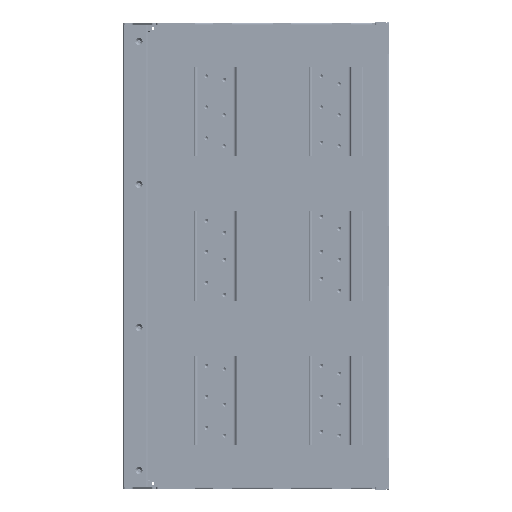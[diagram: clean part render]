
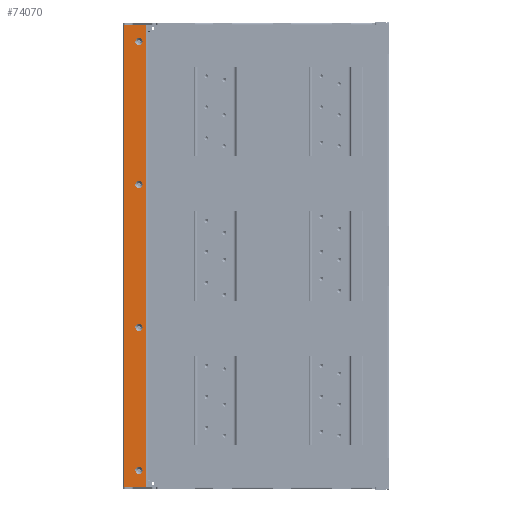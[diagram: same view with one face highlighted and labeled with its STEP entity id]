
A CAD part, left-side view. The second image highlights one B-rep face of the part: STEP entity #74070.
In plain terms, the highlighted planar face has unit normal (-1, 0, 0).
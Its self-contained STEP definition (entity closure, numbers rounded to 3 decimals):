
#5043 = EDGE_CURVE ( 'NONE', #69368, #55714, #101835, .T. ) ;
#6236 = EDGE_LOOP ( 'NONE', ( #173996, #24056 ) ) ;
#9620 = VERTEX_POINT ( 'NONE', #147179 ) ;
#9882 = CARTESIAN_POINT ( 'NONE',  ( -638.698, 403.789, -435.547 ) ) ;
#10195 = ORIENTED_EDGE ( 'NONE', *, *, #133899, .T. ) ;
#11473 = DIRECTION ( 'NONE',  ( 1., 0., 0. ) ) ;
#12767 = DIRECTION ( 'NONE',  ( 0., 0., -1. ) ) ;
#13410 = CIRCLE ( 'NONE', #40433, 6.1 ) ;
#17585 = CARTESIAN_POINT ( 'NONE',  ( -638.698, 403.789, -441.647 ) ) ;
#17903 = LINE ( 'NONE', #20507, #157881 ) ;
#18901 = CARTESIAN_POINT ( 'NONE',  ( -638.698, 403.789, -207.747 ) ) ;
#20507 = CARTESIAN_POINT ( 'NONE',  ( -638.698, 391.589, 307.153 ) ) ;
#24056 = ORIENTED_EDGE ( 'NONE', *, *, #135575, .T. ) ;
#27656 = EDGE_CURVE ( 'NONE', #51804, #154990, #249671, .T. ) ;
#28412 = CARTESIAN_POINT ( 'NONE',  ( -638.698, 428.789, 307.153 ) ) ;
#30187 = VECTOR ( 'NONE', #114477, 1000. ) ;
#30776 = EDGE_CURVE ( 'NONE', #126091, #69368, #227020, .T. ) ;
#32148 = EDGE_LOOP ( 'NONE', ( #47682, #106613 ) ) ;
#37099 = CARTESIAN_POINT ( 'NONE',  ( -638.698, 391.589, 307.153 ) ) ;
#38805 = DIRECTION ( 'NONE',  ( 0., 0., 1. ) ) ;
#39892 = VERTEX_POINT ( 'NONE', #169260 ) ;
#40433 = AXIS2_PLACEMENT_3D ( 'NONE', #217400, #115071, #117662 ) ;
#40462 = AXIS2_PLACEMENT_3D ( 'NONE', #192614, #56265, #233420 ) ;
#45158 = AXIS2_PLACEMENT_3D ( 'NONE', #131019, #148467, #150153 ) ;
#47682 = ORIENTED_EDGE ( 'NONE', *, *, #208658, .T. ) ;
#51302 = CIRCLE ( 'NONE', #164918, 6.1 ) ;
#51804 = VERTEX_POINT ( 'NONE', #70214 ) ;
#55714 = VERTEX_POINT ( 'NONE', #83327 ) ;
#56265 = DIRECTION ( 'NONE',  ( 1., 0., 0. ) ) ;
#61832 = ORIENTED_EDGE ( 'NONE', *, *, #30776, .T. ) ;
#64875 = FACE_BOUND ( 'NONE', #6236, .T. ) ;
#65267 = VERTEX_POINT ( 'NONE', #18901 ) ;
#68408 = DIRECTION ( 'NONE',  ( 0., 0., -1. ) ) ;
#69368 = VERTEX_POINT ( 'NONE', #109918 ) ;
#70214 = CARTESIAN_POINT ( 'NONE',  ( -638.698, 403.789, 272.253 ) ) ;
#74070 = ADVANCED_FACE ( 'NONE', ( #114658, #89798, #130137, #64875, #239009 ), #214158, .F. ) ;
#77108 = EDGE_LOOP ( 'NONE', ( #93451, #61832, #94154, #181683 ) ) ;
#78779 = VERTEX_POINT ( 'NONE', #134725 ) ;
#78800 = DIRECTION ( 'NONE',  ( 0., 1., 0. ) ) ;
#82959 = DIRECTION ( 'NONE',  ( 1., 0., 0. ) ) ;
#83327 = CARTESIAN_POINT ( 'NONE',  ( -638.698, 391.589, -470.447 ) ) ;
#83963 = AXIS2_PLACEMENT_3D ( 'NONE', #17585, #82959, #240977 ) ;
#89798 = FACE_BOUND ( 'NONE', #99550, .T. ) ;
#93451 = ORIENTED_EDGE ( 'NONE', *, *, #118732, .F. ) ;
#94154 = ORIENTED_EDGE ( 'NONE', *, *, #5043, .T. ) ;
#96900 = AXIS2_PLACEMENT_3D ( 'NONE', #207238, #189017, #68408 ) ;
#99550 = EDGE_LOOP ( 'NONE', ( #224218, #205482 ) ) ;
#101835 = LINE ( 'NONE', #233440, #30187 ) ;
#106613 = ORIENTED_EDGE ( 'NONE', *, *, #224810, .T. ) ;
#107451 = AXIS2_PLACEMENT_3D ( 'NONE', #211739, #250932, #12767 ) ;
#109918 = CARTESIAN_POINT ( 'NONE',  ( -638.698, 428.789, -470.447 ) ) ;
#114477 = DIRECTION ( 'NONE',  ( 0., -1., 0. ) ) ;
#114658 = FACE_OUTER_BOUND ( 'NONE', #77108, .T. ) ;
#114741 = VERTEX_POINT ( 'NONE', #37099 ) ;
#115071 = DIRECTION ( 'NONE',  ( 1., 0., 0. ) ) ;
#116104 = CARTESIAN_POINT ( 'NONE',  ( -638.698, 429.789, 307.153 ) ) ;
#117662 = DIRECTION ( 'NONE',  ( 0., 0., -1. ) ) ;
#118695 = DIRECTION ( 'NONE',  ( 1., 0., 0. ) ) ;
#118732 = EDGE_CURVE ( 'NONE', #126091, #114741, #125375, .T. ) ;
#125375 = LINE ( 'NONE', #212649, #165759 ) ;
#126091 = VERTEX_POINT ( 'NONE', #244193 ) ;
#130137 = FACE_BOUND ( 'NONE', #201501, .T. ) ;
#131019 = CARTESIAN_POINT ( 'NONE',  ( -638.698, 403.789, -201.647 ) ) ;
#133899 = EDGE_CURVE ( 'NONE', #9620, #195435, #51302, .T. ) ;
#134725 = CARTESIAN_POINT ( 'NONE',  ( -638.698, 403.789, -447.747 ) ) ;
#135575 = EDGE_CURVE ( 'NONE', #65267, #39892, #13410, .T. ) ;
#139694 = EDGE_CURVE ( 'NONE', #195435, #9620, #161988, .T. ) ;
#140034 = AXIS2_PLACEMENT_3D ( 'NONE', #116104, #118695, #78800 ) ;
#141106 = EDGE_CURVE ( 'NONE', #154990, #51804, #155147, .T. ) ;
#141276 = EDGE_CURVE ( 'NONE', #55714, #114741, #17903, .T. ) ;
#147179 = CARTESIAN_POINT ( 'NONE',  ( -638.698, 403.789, 32.253 ) ) ;
#148467 = DIRECTION ( 'NONE',  ( 1., 0., 0. ) ) ;
#148826 = DIRECTION ( 'NONE',  ( 1., 0., 0. ) ) ;
#150153 = DIRECTION ( 'NONE',  ( 0., 0., -1. ) ) ;
#154990 = VERTEX_POINT ( 'NONE', #220126 ) ;
#155147 = CIRCLE ( 'NONE', #107451, 6.1 ) ;
#157881 = VECTOR ( 'NONE', #38805, 1000. ) ;
#161988 = CIRCLE ( 'NONE', #40462, 6.1 ) ;
#164918 = AXIS2_PLACEMENT_3D ( 'NONE', #168655, #148826, #248618 ) ;
#165759 = VECTOR ( 'NONE', #170190, 1000. ) ;
#168655 = CARTESIAN_POINT ( 'NONE',  ( -638.698, 403.789, 38.353 ) ) ;
#169260 = CARTESIAN_POINT ( 'NONE',  ( -638.698, 403.789, -195.547 ) ) ;
#170190 = DIRECTION ( 'NONE',  ( 0., -1., 0. ) ) ;
#172256 = CARTESIAN_POINT ( 'NONE',  ( -638.698, 403.789, 278.353 ) ) ;
#173996 = ORIENTED_EDGE ( 'NONE', *, *, #177667, .T. ) ;
#174211 = VECTOR ( 'NONE', #187356, 1000. ) ;
#177667 = EDGE_CURVE ( 'NONE', #39892, #65267, #203781, .T. ) ;
#181683 = ORIENTED_EDGE ( 'NONE', *, *, #141276, .T. ) ;
#187356 = DIRECTION ( 'NONE',  ( 0., 0., -1. ) ) ;
#187783 = ORIENTED_EDGE ( 'NONE', *, *, #139694, .T. ) ;
#189017 = DIRECTION ( 'NONE',  ( 1., 0., 0. ) ) ;
#192614 = CARTESIAN_POINT ( 'NONE',  ( -638.698, 403.789, 38.353 ) ) ;
#195435 = VERTEX_POINT ( 'NONE', #250511 ) ;
#200881 = AXIS2_PLACEMENT_3D ( 'NONE', #172256, #11473, #212978 ) ;
#201501 = EDGE_LOOP ( 'NONE', ( #187783, #10195 ) ) ;
#203781 = CIRCLE ( 'NONE', #45158, 6.1 ) ;
#205482 = ORIENTED_EDGE ( 'NONE', *, *, #27656, .T. ) ;
#206130 = CIRCLE ( 'NONE', #96900, 6.1 ) ;
#207238 = CARTESIAN_POINT ( 'NONE',  ( -638.698, 403.789, -441.647 ) ) ;
#208658 = EDGE_CURVE ( 'NONE', #248428, #78779, #219780, .T. ) ;
#211739 = CARTESIAN_POINT ( 'NONE',  ( -638.698, 403.789, 278.353 ) ) ;
#212649 = CARTESIAN_POINT ( 'NONE',  ( -638.698, 429.789, 307.153 ) ) ;
#212978 = DIRECTION ( 'NONE',  ( 0., 0., -1. ) ) ;
#214158 = PLANE ( 'NONE',  #140034 ) ;
#217400 = CARTESIAN_POINT ( 'NONE',  ( -638.698, 403.789, -201.647 ) ) ;
#219780 = CIRCLE ( 'NONE', #83963, 6.1 ) ;
#220126 = CARTESIAN_POINT ( 'NONE',  ( -638.698, 403.789, 284.453 ) ) ;
#224218 = ORIENTED_EDGE ( 'NONE', *, *, #141106, .T. ) ;
#224810 = EDGE_CURVE ( 'NONE', #78779, #248428, #206130, .T. ) ;
#227020 = LINE ( 'NONE', #28412, #174211 ) ;
#233420 = DIRECTION ( 'NONE',  ( 0., 0., -1. ) ) ;
#233440 = CARTESIAN_POINT ( 'NONE',  ( -638.698, 429.789, -470.447 ) ) ;
#239009 = FACE_BOUND ( 'NONE', #32148, .T. ) ;
#240977 = DIRECTION ( 'NONE',  ( 0., 0., -1. ) ) ;
#244193 = CARTESIAN_POINT ( 'NONE',  ( -638.698, 428.789, 307.153 ) ) ;
#248428 = VERTEX_POINT ( 'NONE', #9882 ) ;
#248618 = DIRECTION ( 'NONE',  ( 0., 0., -1. ) ) ;
#249671 = CIRCLE ( 'NONE', #200881, 6.1 ) ;
#250511 = CARTESIAN_POINT ( 'NONE',  ( -638.698, 403.789, 44.453 ) ) ;
#250932 = DIRECTION ( 'NONE',  ( 1., 0., 0. ) ) ;
